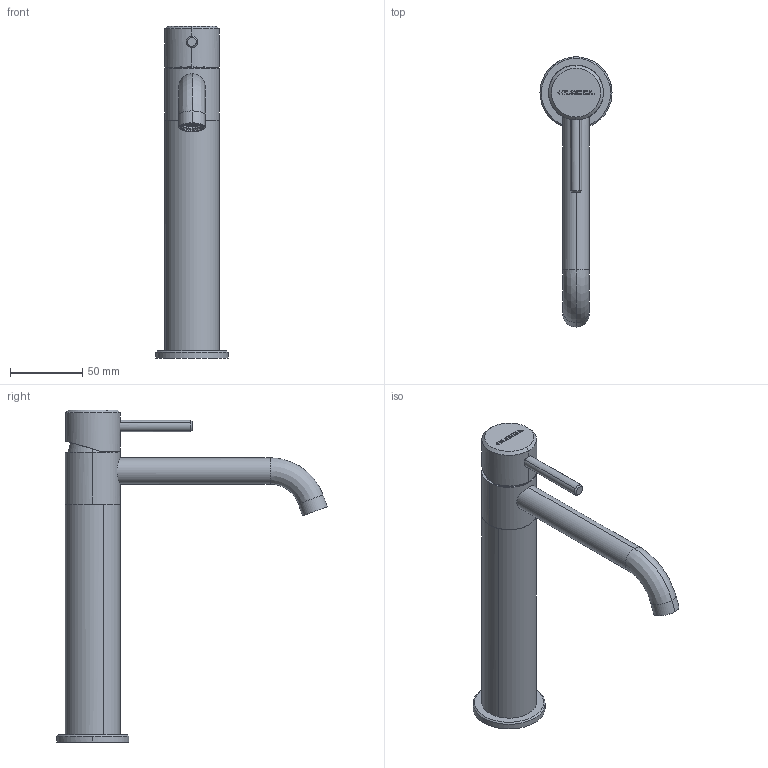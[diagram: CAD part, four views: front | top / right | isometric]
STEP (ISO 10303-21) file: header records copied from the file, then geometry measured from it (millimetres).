
FILE_DESCRIPTION(/* description */ (''),/* implementation_level */ '2;1');
FILE_NAME(/* name */ 'ST3055ACC',/* time_stamp */ '2024-02-26T10:17:42+01:00',/* author */ (''),/* organization */ (''),/* preprocessor_version */ 'ST-DEVELOPER v16.5',/* originating_system */ 'Rhino 7.36',/* authorisation */ '');
FILE_SCHEMA (('CONFIG_CONTROL_DESIGN'));
Length unit declared in the file: millimetre
Products named in the file (1): Document
Bounding box: 50 x 187.67 x 230.3 mm (x, y, z)
Volume: 48160.3 mm3; surface area: 46194.9 mm2
Topology: 2 solids, 65 shells, 404 faces, 1359 edges, 1021 vertices
Faces by surface type: plane 219, cylinder 134, bspline 51
Entity records: 16540 total; most frequent: CARTESIAN_POINT 8643, ORIENTED_EDGE 1976, EDGE_CURVE 1357, VERTEX_POINT 1020, B_SPLINE_CURVE_WITH_KNOTS 1014, EDGE_LOOP 421, ADVANCED_FACE 403, FACE_OUTER_BOUND 403
